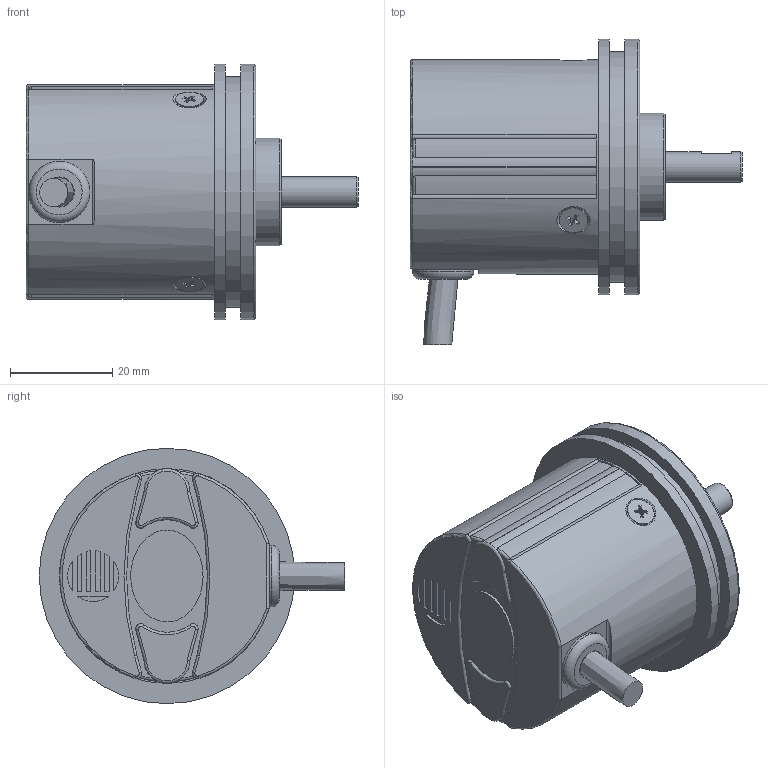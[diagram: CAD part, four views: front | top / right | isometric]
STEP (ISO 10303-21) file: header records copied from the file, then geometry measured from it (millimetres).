
FILE_DESCRIPTION( ( 'Unknown' ), '1' );
FILE_NAME( 'X:/I - Italia/UT - Ufficio Tecnico/Documenti Tecnico/Schede prodotti/InDesign/Assiemi SolidEdge per cataloghi/STEP ASSIEMI/EL_ER_40N_albero 6 X uscita PR.stp', 'Unknown', ( 'Unknown' ), ( 'Unknown' ), 'PSStep 15.0.49', 'Unknown', ' ' );
FILE_SCHEMA( ( 'AUTOMOTIVE_DESIGN { 1 0 10303 214 1 1 1 1 }' ) );
Length unit declared in the file: millimetre
Products named in the file (10): Assem1; 41320005C1; 23300035 - UNI 7688 M3x6 TSP+; 23300035 - UNI 7688 M3x6 TSP+-oa0; 23300035 - UNI 7688 M3x6 TSP+-oa1; 23310161 - gommino TPE ø5.5; cavo; 41890007; 23220001B1; 41330165C1
Assembly tree (9 placements, depth 2):
  Assem1
    41320005C1
    23300035 - UNI 7688 M3x6 TSP+
    23300035 - UNI 7688 M3x6 TSP+-oa0
    23300035 - UNI 7688 M3x6 TSP+-oa1
    23310161 - gommino TPE ø5.5
    cavo
    41890007
    23220001B1
    41330165C1
Bounding box: 65 x 59.81 x 50 mm (x, y, z)
Volume: 37000.2 mm3; surface area: 25658.3 mm2
Topology: 9 solids, 9 shells, 288 faces, 681 edges, 440 vertices
Faces by surface type: plane 125, cylinder 97, cone 29, torus 28, bspline 8, extrusion 1
Full cylindrical faces by diameter (mm): 2.459 x6, 2.5 x3, 3 x3, 3.3 x3, 5.5 x1, 5.6 x3, 6 x7, 6.3 x1, 6.35 x1, 8 x1, 8.997 x1, 12 x2, 14.25 x1, 16 x1, 19.1 x8, 19.25 x1, 21 x1, 36 x1, 38.8 x2, 39 x1, 42 x1, 45.2 x1, 50 x2
Entity records: 13439 total; most frequent: CARTESIAN_POINT 5193, DIRECTION 1277, ORIENTED_EDGE 1056, EDGE_CURVE 528, AXIS2_PLACEMENT_3D 519, EDGE_LOOP 398, VERTEX_POINT 390, FACE_OUTER_BOUND 324
